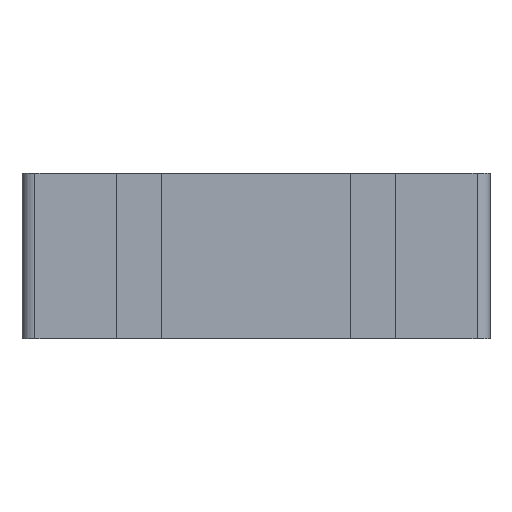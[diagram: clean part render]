
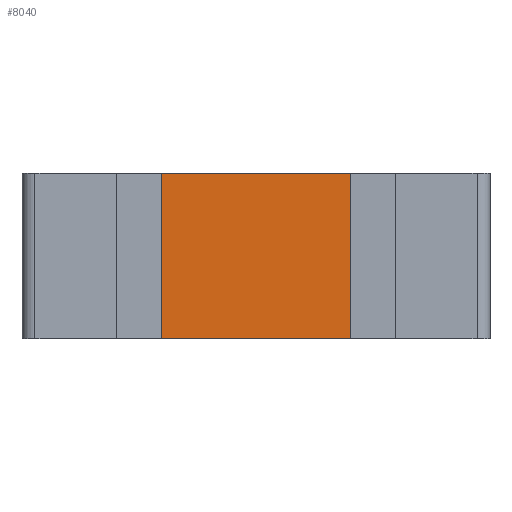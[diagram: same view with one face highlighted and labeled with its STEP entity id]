
A CAD part, front view. The second image highlights one B-rep face of the part: STEP entity #8040.
In plain terms, the highlighted planar face has unit normal (0, -1, 0).
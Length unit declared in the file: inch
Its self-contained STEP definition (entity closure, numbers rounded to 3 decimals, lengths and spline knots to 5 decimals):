
#225=CARTESIAN_POINT('',(-0.94162,-1.54854,1.25));
#226=VERTEX_POINT('',#225);
#233=CARTESIAN_POINT('',(0.49539,-1.54854,1.25));
#234=VERTEX_POINT('',#233);
#235=CARTESIAN_POINT('',(0.49539,-1.54854,1.25));
#236=DIRECTION('',(-1.0,0.0,0.0));
#237=VECTOR('',#236,1.43701);
#238=LINE('',#235,#237);
#239=EDGE_CURVE('',#234,#226,#238,.T.);
#7999=CARTESIAN_POINT('',(0.49539,-1.54854,0.0));
#8000=VERTEX_POINT('',#7999);
#8001=CARTESIAN_POINT('',(0.49539,-1.54854,0.0));
#8002=DIRECTION('',(0.0,0.0,1.0));
#8003=VECTOR('',#8002,1.25);
#8004=LINE('',#8001,#8003);
#8005=EDGE_CURVE('',#8000,#234,#8004,.T.);
#8017=CARTESIAN_POINT('',(0.49539,-1.54854,0.0));
#8018=DIRECTION('',(0.0,-1.0,0.0));
#8019=DIRECTION('',(0.0,0.0,-1.0));
#8020=AXIS2_PLACEMENT_3D('',#8017,#8018,#8019);
#8021=PLANE('',#8020);
#8022=ORIENTED_EDGE('',*,*,#239,.T.);
#8023=CARTESIAN_POINT('',(-0.94162,-1.54854,0.0));
#8024=VERTEX_POINT('',#8023);
#8025=CARTESIAN_POINT('',(-0.94162,-1.54854,0.0));
#8026=DIRECTION('',(0.0,0.0,1.0));
#8027=VECTOR('',#8026,1.25);
#8028=LINE('',#8025,#8027);
#8029=EDGE_CURVE('',#8024,#226,#8028,.T.);
#8030=ORIENTED_EDGE('',*,*,#8029,.F.);
#8031=CARTESIAN_POINT('',(0.49539,-1.54854,0.0));
#8032=DIRECTION('',(-1.0,0.0,0.0));
#8033=VECTOR('',#8032,1.43701);
#8034=LINE('',#8031,#8033);
#8035=EDGE_CURVE('',#8000,#8024,#8034,.T.);
#8036=ORIENTED_EDGE('',*,*,#8035,.F.);
#8037=ORIENTED_EDGE('',*,*,#8005,.T.);
#8038=EDGE_LOOP('',(#8022,#8030,#8036,#8037));
#8039=FACE_OUTER_BOUND('',#8038,.T.);
#8040=ADVANCED_FACE('',(#8039),#8021,.T.);
